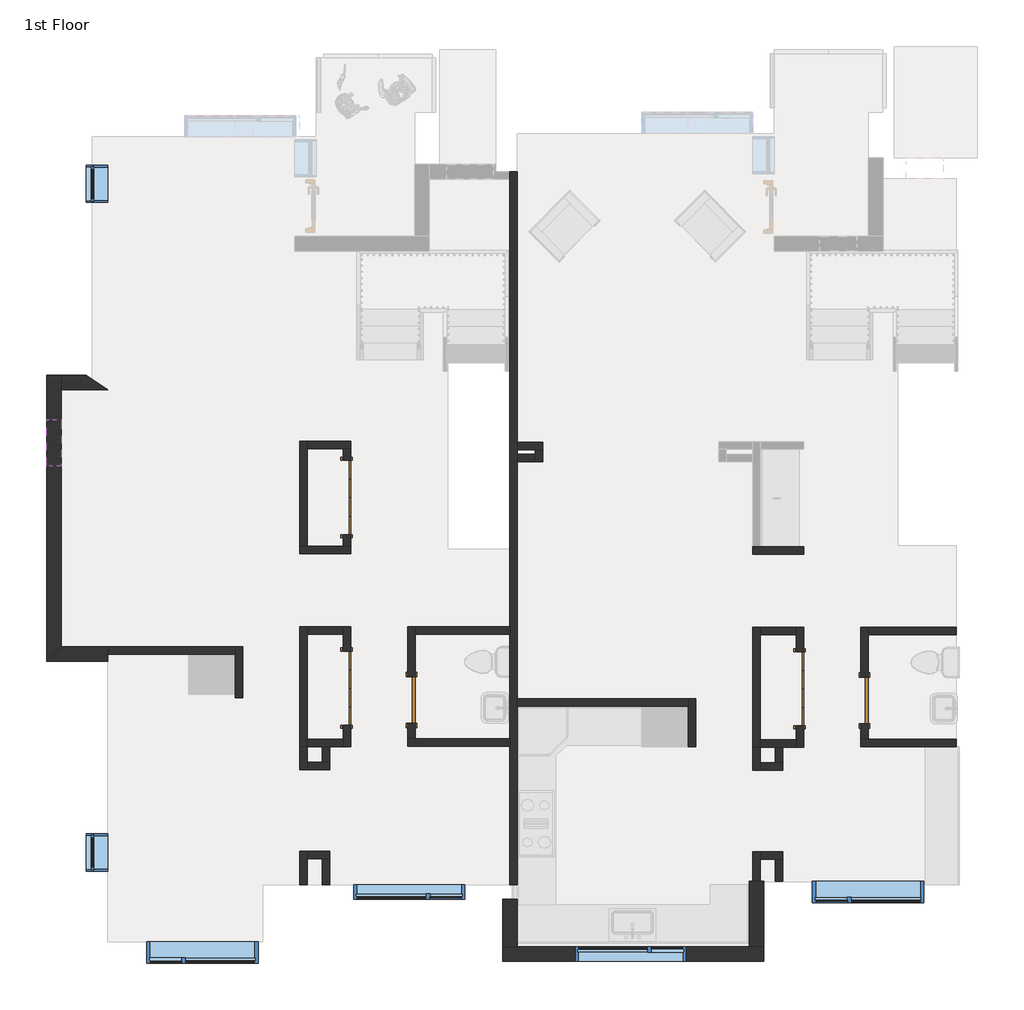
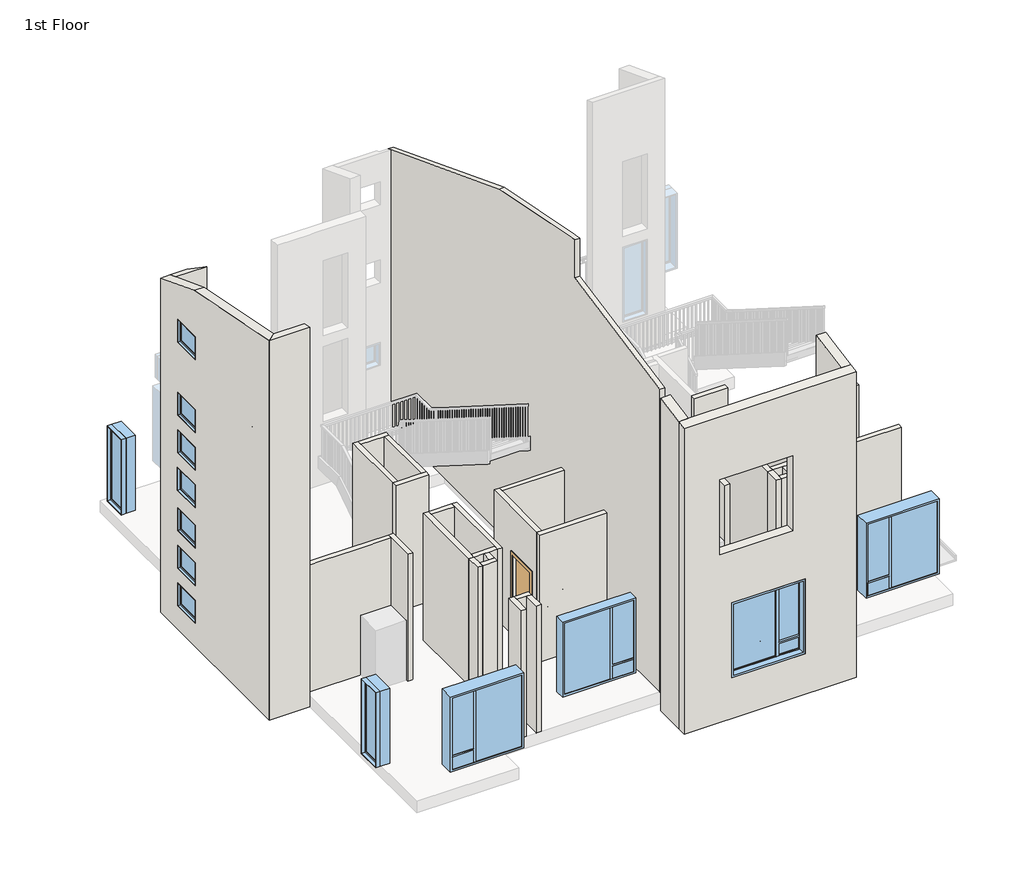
# One storey, part 1 of 6: 45 walls, 13 windows, 5 doors.
"""IFC4 building model written with IfcOpenShell, lengths in millimetres."""

from ifc_helpers import new_model, si_unit, frame, origin, origin_with_axes, place, context, project, spatial, polyline, outline, extrude, faceted_brep, transform, mapped, element, save
from components import bifold_4_panel_87549022, door_f8acb57e, window_8bf192ed, window_b1c1038b, window_8c170f25, window_7b40078c, window_0ea17b29, window_b4566f23

model = new_model("IFC4")

# Units and contexts
model_context = context("Model", 3, world=origin())
ifc_project = project(units=[si_unit("LENGTHUNIT", "METRE", prefix="MILLI")], contexts=[model_context])

# Site, building, storey
site = spatial("IfcSite", under=ifc_project)
building = spatial("IfcBuilding", under=site)
storey = spatial("IfcBuildingStorey", under=building, Name="1st Floor", Elevation=0.0)

# Doors
placement = place(None, origin())
bifold_4_panel_shape = bifold_4_panel_87549022(model_context)
element("IfcDoor", 1, ObjectType="Bifold - 4 panel : 48\" x  84\"", at=placement, inside=storey, context=model_context, shape_type="MappedRepresentation", body=[
    mapped(bifold_4_panel_shape, transform((3072.3655789, -2688.2311915, 0.0), x_axis=(0.0, -1.0, 0.0), y_axis=(1.0, 0.0, 0.0), z_axis=(0.0, 0.0, 1.0))),
])
element("IfcDoor", 2, ObjectType="Bifold - 4 panel : 48\" x  84\"", at=placement, inside=storey, context=model_context, shape_type="MappedRepresentation", body=[
    mapped(bifold_4_panel_shape, transform((-4380.8788287, -2678.2311915, 0.0), x_axis=(0.0, -1.0, 0.0), y_axis=(1.0, 0.0, 0.0), z_axis=(0.0, 0.0, 1.0))),
])
element("IfcDoor", 3, ObjectType="Bifold - 4 panel : 48\" x  84\"", at=placement, inside=storey, context=model_context, shape_type="MappedRepresentation", body=[
    mapped(bifold_4_panel_shape, transform((-4380.8788287, 458.0881146, 0.0), x_axis=(0.0, -1.0, 0.0), y_axis=(1.0, 0.0, 0.0), z_axis=(0.0, 0.0, 1.0))),
])
door_shape = door_f8acb57e(model_context)
element("IfcDoor", 4, ObjectType="Single-Flush : 30\" x 84\"", at=placement, inside=storey, context=model_context, shape_type="MappedRepresentation", body=[
    mapped(door_shape, transform((4133.8655789, -2883.0811915, 0.0), x_axis=(0.0, -1.0, 0.0), y_axis=(1.0, 0.0, 0.0), z_axis=(0.0, 0.0, 1.0))),
])
element("IfcDoor", 5, ObjectType="Single-Flush : 30\" x 84\"", at=placement, inside=storey, context=model_context, shape_type="MappedRepresentation", body=[
    mapped(door_shape, transform((-3319.3788287, -2873.0811915, 0.0), x_axis=(0.0, -1.0, 0.0), y_axis=(1.0, 0.0, 0.0), z_axis=(0.0, 0.0, 1.0))),
])

# Walls
element("IfcWall", 6, ObjectType="Exterior - Stucco", at=placement, inside=storey, context=model_context, shape_type="Brep", body=[
    faceted_brep([(-1817.4196781, -7175.2311915, -304.8), (2477.8178219, -7175.2311915, -304.8), (2477.8178219, -7175.2311915, 7751.741203), (-1817.4196781, -7175.2311915, 7751.741203), (1202.9938664, -7175.2311915, 2743.2), (1202.9938664, -7175.2311915, 762.0), (-625.8061336, -7175.2311915, 762.0), (-625.8061336, -7175.2311915, 2743.2), (898.1938664, -7175.2311915, 6096.0), (898.1938664, -7175.2311915, 4114.8), (-930.6061336, -7175.2311915, 4114.8), (-930.6061336, -7175.2311915, 6096.0), (-1817.4196781, -6933.9311915, -304.8), (-1817.4196781, -6933.9311915, 7798.3676333), (-1576.1196781, -6933.9311915, 7798.3676333), (2236.5178219, -6933.9311915, 7798.3676333), (2477.8178219, -6933.9311915, 7798.3676333), (2477.8178219, -6933.9311915, -304.8), (2236.5178219, -6933.9311915, -304.8), (-1576.1196781, -6933.9311915, -304.8), (1202.9938664, -6933.9311915, 2743.2), (-625.8061336, -6933.9311915, 2743.2), (-625.8061336, -6933.9311915, 762.0), (1202.9938664, -6933.9311915, 762.0), (898.1938664, -6933.9311915, 6096.0), (-930.6061336, -6933.9311915, 6096.0), (-930.6061336, -6933.9311915, 4114.8), (898.1938664, -6933.9311915, 4114.8)], [[[0, 1, 2, 3], [4, 5, 6, 7], [8, 9, 10, 11]], [[12, 13, 14, 15, 16, 17, 18, 19], [20, 21, 22, 23], [24, 25, 26, 27]], [[1, 0, 12, 19, 18, 17]], [[0, 3, 13, 12]], [[2, 1, 17, 16]], [[3, 2, 16, 15, 14, 13]], [[5, 4, 20, 23]], [[6, 5, 23, 22]], [[7, 6, 22, 21]], [[4, 7, 21, 20]], [[9, 8, 24, 27]], [[10, 9, 27, 26]], [[11, 10, 26, 25]], [[8, 11, 25, 24]]]),
])
element("IfcWall", 7, ObjectType="Exterior - Stucco", at=placement, inside=storey, context=model_context, shape_type="Brep", body=[
    faceted_brep([(-9080.4946781, 2472.0574206, -304.8), (-9080.4946781, 2472.0574206, 8511.7370135), (-9080.4946781, 2230.7574206, 8604.6307787), (-9080.4946781, 1023.3611207, 9069.4446552), (-9080.4946781, -1997.5436915, 9665.7212145), (-9080.4946781, -1997.5436915, -304.8), (-9080.4946781, 2230.7574206, -304.8), (-9080.4946781, 1734.6688085, 914.4), (-9080.4946781, 1734.6688085, 304.8), (-9080.4946781, 972.6688085, 304.8), (-9080.4946781, 972.6688085, 914.4), (-9080.4946781, 1734.6688085, 1908.175), (-9080.4946781, 1734.6688085, 1298.575), (-9080.4946781, 972.6688085, 1298.575), (-9080.4946781, 972.6688085, 1908.175), (-9080.4946781, 1734.6688085, 2901.95), (-9080.4946781, 1734.6688085, 2292.35), (-9080.4946781, 972.6688085, 2292.35), (-9080.4946781, 972.6688085, 2901.95), (-9080.4946781, 1741.8074206, 3962.4), (-9080.4946781, 1741.8074206, 3352.8), (-9080.4946781, 979.8074206, 3352.8), (-9080.4946781, 979.8074206, 3962.4), (-9080.4946781, 1734.6688085, 4956.175), (-9080.4946781, 1734.6688085, 4346.575), (-9080.4946781, 972.6688085, 4346.575), (-9080.4946781, 972.6688085, 4956.175), (-9080.4946781, 1734.6688085, 5949.95), (-9080.4946781, 1734.6688085, 5340.35), (-9080.4946781, 972.6688085, 5340.35), (-9080.4946781, 972.6688085, 5949.95), (-9080.4946781, 1734.6688085, 7870.825), (-9080.4946781, 1734.6688085, 7261.225), (-9080.4946781, 972.6688085, 7261.225), (-9080.4946781, 972.6688085, 7870.825), (-9321.7946781, 2472.0574206, -304.8), (-9321.7946781, -2238.8436915, -304.8), (-9321.7946781, -2238.8436915, 9713.3498366), (-9321.7946781, 1023.3611207, 9069.4446552), (-9321.7946781, 2472.0574206, 8511.7370135), (-9321.7946781, 1734.6688085, 914.4), (-9321.7946781, 972.6688085, 914.4), (-9321.7946781, 972.6688085, 304.8), (-9321.7946781, 1734.6688085, 304.8), (-9321.7946781, 1734.6688085, 1908.175), (-9321.7946781, 972.6688085, 1908.175), (-9321.7946781, 972.6688085, 1298.575), (-9321.7946781, 1734.6688085, 1298.575), (-9321.7946781, 1734.6688085, 2901.95), (-9321.7946781, 972.6688085, 2901.95), (-9321.7946781, 972.6688085, 2292.35), (-9321.7946781, 1734.6688085, 2292.35), (-9321.7946781, 1741.8074206, 3962.4), (-9321.7946781, 979.8074206, 3962.4), (-9321.7946781, 979.8074206, 3352.8), (-9321.7946781, 1741.8074206, 3352.8), (-9321.7946781, 1734.6688085, 4956.175), (-9321.7946781, 972.6688085, 4956.175), (-9321.7946781, 972.6688085, 4346.575), (-9321.7946781, 1734.6688085, 4346.575), (-9321.7946781, 1734.6688085, 5949.95), (-9321.7946781, 972.6688085, 5949.95), (-9321.7946781, 972.6688085, 5340.35), (-9321.7946781, 1734.6688085, 5340.35), (-9321.7946781, 1734.6688085, 7870.825), (-9321.7946781, 972.6688085, 7870.825), (-9321.7946781, 972.6688085, 7261.225), (-9321.7946781, 1734.6688085, 7261.225)], [[[0, 1, 2, 3, 4, 5, 6], [7, 8, 9, 10], [11, 12, 13, 14], [15, 16, 17, 18], [19, 20, 21, 22], [23, 24, 25, 26], [27, 28, 29, 30], [31, 32, 33, 34]], [[35, 36, 37, 38, 39], [40, 41, 42, 43], [44, 45, 46, 47], [48, 49, 50, 51], [52, 53, 54, 55], [56, 57, 58, 59], [60, 61, 62, 63], [64, 65, 66, 67]], [[36, 35, 0, 6, 5]], [[35, 39, 1, 0]], [[37, 36, 5, 4]], [[8, 7, 40, 43]], [[9, 8, 43, 42]], [[10, 9, 42, 41]], [[7, 10, 41, 40]], [[12, 11, 44, 47]], [[13, 12, 47, 46]], [[14, 13, 46, 45]], [[11, 14, 45, 44]], [[16, 15, 48, 51]], [[17, 16, 51, 50]], [[18, 17, 50, 49]], [[15, 18, 49, 48]], [[20, 19, 52, 55]], [[21, 20, 55, 54]], [[22, 21, 54, 53]], [[19, 22, 53, 52]], [[24, 23, 56, 59]], [[25, 24, 59, 58]], [[26, 25, 58, 57]], [[23, 26, 57, 56]], [[28, 27, 60, 63]], [[29, 28, 63, 62]], [[30, 29, 62, 61]], [[27, 30, 61, 60]], [[32, 31, 64, 67]], [[33, 32, 67, 66]], [[34, 33, 66, 65]], [[31, 34, 65, 64]], [[39, 38, 3, 2, 1]], [[38, 37, 4, 3]]]),
])
element("IfcWall", 8, ObjectType="Exterior - Stucco", at=placement, inside=storey, context=model_context, shape_type="Brep", body=[
    faceted_brep([(-9080.4946781, 2230.7574206, -304.8), (-8312.2446781, 2230.7574206, -304.8), (-8312.2446781, 2230.7574206, 8604.6307787), (-9080.4946781, 2230.7574206, 8604.6307787), (-9080.4946781, 2472.0574206, -304.8), (-9080.4946781, 2472.0574206, 8511.7370135), (-8664.6696781, 2472.0574206, 8511.7370135), (-8664.6696781, 2472.0574206, -304.8)], [[[0, 1, 2, 3]], [[4, 5, 6, 7]], [[1, 0, 4, 7]], [[2, 1, 7, 6]], [[0, 3, 5, 4]], [[3, 2, 6, 5]]]),
])
element("IfcWall", 9, ObjectType="Exterior - Stucco", at=placement, inside=storey, context=model_context, shape_type="Brep", body=[
    faceted_brep([(-9321.7946781, -2238.8436915, -304.8), (-8312.2446781, -2238.8436915, -304.8), (-8312.2446781, -2238.8436915, -28.575), (-8312.2446781, -2238.8436915, 6705.6), (-8312.2446781, -2238.8436915, 8711.0519224), (-8312.2446781, -2238.8436915, 9713.3498366), (-9321.7946781, -2238.8436915, 9713.3498366), (-9080.4946781, -1997.5436915, -304.8), (-9080.4946781, -1997.5436915, 9665.7212145), (-8312.2446781, -1997.5436915, 9665.7212145), (-8312.2446781, -1997.5436915, 6705.6), (-8312.2446781, -1997.5436915, -304.8)], [[[0, 1, 2, 3, 4, 5, 6]], [[7, 8, 9, 10, 11]], [[1, 0, 7, 11]], [[5, 4, 3, 2, 1, 11, 10, 9]], [[0, 6, 8, 7]], [[6, 5, 9, 8]]]),
])
element("IfcWall", 10, ObjectType="Exterior - Stucco", at=placement, inside=storey, context=model_context, shape_type="SweptSolid", body=[
    extrude(outline(polyline([(-6155.1546456, 7948.8507263), (-6155.1546456, -304.8), (-6933.9311915, -304.8), (-6933.9311915, 7798.3676333), (-6155.1546456, 7948.8507263)])), frame((-1817.4196781, 0.0, 0.0), z_axis=(1.0, 0.0, 0.0), x_axis=(0.0, 1.0, 0.0)), (0.0, 0.0, 1.0), 241.3),
])
element("IfcWall", 11, ObjectType="Exterior - Stucco", at=placement, inside=storey, context=model_context, shape_type="Brep", body=[
    faceted_brep([(2477.8178219, -6933.9311915, -304.8), (2477.8178219, -6210.7171456, -304.8), (2477.8178219, -5858.2921456, -304.8), (2477.8178219, -5858.2921456, 8006.2135057), (2477.8178219, -6210.7171456, 7938.1143772), (2477.8178219, -6933.9311915, 7798.3676333), (2236.5178219, -6933.9311915, -304.8), (2236.5178219, -6933.9311915, 7798.3676333), (2236.5178219, -5858.2921456, 8006.2135057), (2236.5178219, -5858.2921456, -304.8)], [[[0, 1, 2, 3, 4, 5]], [[6, 7, 8, 9]], [[2, 1, 0, 6, 9]], [[2, 9, 8, 3]], [[0, 5, 7, 6]], [[5, 4, 3, 8, 7]]]),
])
element("IfcWall", 12, ObjectType="Interior - 4 7/8\" Partition (1-hr)", at=placement, inside=storey, context=model_context, shape_type="Brep", body=[
    faceted_brep([(5642.6530789, -3646.6686915, 0.0), (5642.6530789, -3646.6686915, 3048.0), (4071.9530789, -3646.6686915, 3048.0), (4071.9530789, -3646.6686915, 0.0), (5642.6530789, -3522.8436915, 0.0), (4195.7780789, -3522.8436915, 0.0), (4071.9530789, -3522.8436915, 0.0), (4071.9530789, -3522.8436915, 3048.0), (4195.7780789, -3522.8436915, 3048.0), (5642.6530789, -3522.8436915, 3048.0)], [[[0, 1, 2, 3]], [[4, 5, 6, 7, 8, 9]], [[6, 5, 4, 0, 3]], [[7, 6, 3, 2]], [[4, 9, 1, 0]], [[9, 8, 7, 2, 1]]]),
])
element("IfcWall", 13, ObjectType="Interior - 4 7/8\" Partition (1-hr)", at=placement, inside=storey, context=model_context, shape_type="Brep", body=[
    faceted_brep([(4071.9530789, -3264.0811915, 2133.6), (4071.9530789, -3264.0811915, 0.0), (4071.9530789, -3522.8436915, 0.0), (4071.9530789, -3522.8436915, 3048.0), (4071.9530789, -1675.8186915, 3048.0), (4071.9530789, -1675.8186915, 0.0), (4071.9530789, -2502.0811915, 0.0), (4071.9530789, -2502.0811915, 2133.6), (4195.7780789, -3522.8436915, 0.0), (4195.7780789, -3264.0811915, 0.0), (4195.7780789, -3264.0811915, 2133.6), (4195.7780789, -2502.0811915, 2133.6), (4195.7780789, -2502.0811915, 0.0), (4195.7780789, -1799.6436915, 0.0), (4195.7780789, -1675.8186915, 0.0), (4195.7780789, -1675.8186915, 3048.0), (4195.7780789, -1799.6436915, 3048.0), (4195.7780789, -3522.8436915, 3048.0)], [[[0, 1, 2, 3, 4, 5, 6, 7]], [[8, 9, 10, 11, 12, 13, 14, 15, 16, 17]], [[2, 1, 9, 8]], [[6, 5, 14, 13, 12]], [[15, 14, 5, 4]], [[8, 17, 3, 2]], [[17, 16, 15, 4, 3]], [[10, 9, 1, 0]], [[11, 10, 0, 7]], [[12, 11, 7, 6]]]),
])
element("IfcWall", 14, ObjectType="Interior - 4 7/8\" Partition (1-hr)", at=placement, inside=storey, context=model_context, shape_type="SweptSolid", body=[
    extrude(outline(polyline([(5642.6530789, -1799.6436915), (4195.7780789, -1799.6436915), (4195.7780789, -1675.8186915), (5642.6530789, -1675.8186915), (5642.6530789, -1799.6436915)])), origin_with_axes(), (0.0, 0.0, 1.0), 3048.0),
])
element("IfcWall", 15, ObjectType="Interior - 4 7/8\" Partition (1-hr)", at=placement, inside=storey, context=model_context, shape_type="Brep", body=[
    faceted_brep([(3133.8655789, -352.8186915, 0.0), (3133.8655789, -352.8186915, 3048.0), (3133.8655789, -476.6436915, 3048.0), (3133.8655789, -476.6436915, 0.0), (2300.7803219, -476.6436915, 3048.0), (2300.7803219, -476.6436915, 0.0), (2424.6053219, -352.8186915, 0.0), (2300.7803219, -352.8186915, 0.0), (2300.7803219, -352.8186915, 3048.0), (2424.6053219, -352.8186915, 3048.0)], [[[0, 1, 2, 3]], [[3, 2, 4, 5]], [[0, 6, 7, 8, 9, 1]], [[7, 6, 0, 3, 5]], [[8, 7, 5, 4]], [[1, 9, 8, 4, 2]]]),
])
element("IfcWall", 16, ObjectType="Interior - 4 7/8\" Partition (1-hr)", at=placement, inside=storey, context=model_context, shape_type="SweptSolid", body=[
    extrude(outline(polyline([(1235.1530789, -2980.3686915), (-1576.1196781, -2980.3686915), (-1576.1196781, -2856.5436915), (1235.1530789, -2856.5436915), (1235.1530789, -2980.3686915)])), origin_with_axes(), (0.0, 0.0, 1.0), 3048.0),
])
element("IfcWall", 17, ObjectType="Interior - 4 7/8\" Partition (1-hr)", at=placement, inside=storey, context=model_context, shape_type="Brep", body=[
    faceted_brep([(3134.2780789, -3652.9061915, 0.0), (3134.2780789, -3297.8311915, 0.0), (3134.2780789, -3297.8311915, 2133.6), (3134.2780789, -2078.6311915, 2133.6), (3134.2780789, -2078.6311915, 0.0), (3134.2780789, -1675.8186915, 0.0), (3134.2780789, -1675.8186915, 3048.0), (3134.2780789, -3652.9061915, 3048.0), (3010.4530789, -3297.8311915, 2133.6), (3010.4530789, -3297.8311915, 0.0), (3010.4530789, -3529.0811915, 0.0), (3010.4530789, -3652.9061915, 0.0), (3010.4530789, -3652.9061915, 3048.0), (3010.4530789, -3529.0811915, 3048.0), (3010.4530789, -1799.6436915, 3048.0), (3010.4530789, -1675.8186915, 3048.0), (3010.4530789, -1675.8186915, 0.0), (3010.4530789, -1799.6436915, 0.0), (3010.4530789, -2078.6311915, 0.0), (3010.4530789, -2078.6311915, 2133.6)], [[[0, 1, 2, 3, 4, 5, 6, 7]], [[8, 9, 10, 11, 12, 13, 14, 15, 16, 17, 18, 19]], [[11, 10, 9, 1, 0]], [[18, 17, 16, 5, 4]], [[16, 15, 6, 5]], [[12, 11, 0, 7]], [[15, 14, 13, 12, 7, 6]], [[2, 1, 9, 8]], [[3, 2, 8, 19]], [[4, 3, 19, 18]]]),
])
element("IfcWall", 18, ObjectType="Interior - 4 7/8\" Partition (1-hr)", at=placement, inside=storey, context=model_context, shape_type="Brep", body=[
    faceted_brep([(2424.6053219, -1675.8186915, 0.0), (2424.6053219, -1675.8186915, 3048.0), (2424.6053219, -1799.6436915, 3048.0), (2424.6053219, -3529.0811915, 3048.0), (2424.6053219, -3652.9061915, 3048.0), (2424.6053219, -3652.9061915, 0.0), (2424.6053219, -3529.0811915, 0.0), (2424.6053219, -1799.6436915, 0.0), (2300.7803219, -1675.8186915, 0.0), (2300.7803219, -3652.9061915, 0.0), (2300.7803219, -3652.9061915, 3048.0), (2300.7803219, -1675.8186915, 3048.0)], [[[0, 1, 2, 3, 4, 5, 6, 7]], [[8, 9, 10, 11]], [[9, 8, 0, 7, 6, 5]], [[8, 11, 1, 0]], [[10, 9, 5, 4]], [[11, 10, 4, 3, 2, 1]]]),
])
element("IfcWall", 19, ObjectType="Interior - 4 7/8\" Partition (1-hr)", at=placement, inside=storey, context=model_context, shape_type="Brep", body=[
    faceted_brep([(1235.1530789, -3646.2561915, 3048.0), (1235.1530789, -3646.2561915, 0.0), (1358.9780789, -3646.2561915, 0.0), (1358.9780789, -3646.2561915, 3048.0), (1358.9780789, -2856.5436915, 0.0), (1358.9780789, -2856.5436915, 3048.0), (1235.1530789, -2856.5436915, 0.0), (1235.1530789, -2980.3686915, 0.0), (1235.1530789, -2980.3686915, 3048.0), (1235.1530789, -2856.5436915, 3048.0)], [[[0, 1, 2, 3]], [[4, 5, 3, 2]], [[6, 7, 1, 0, 8, 9]], [[1, 7, 6, 4, 2]], [[6, 9, 5, 4]], [[9, 8, 0, 3, 5]]]),
])
element("IfcWall", 20, ObjectType="Interior - 4 7/8\" Partition (1-hr)", at=placement, inside=storey, context=model_context, shape_type="SweptSolid", body=[
    extrude(outline(polyline([(3010.4530789, -1799.6436915), (2424.6053219, -1799.6436915), (2424.6053219, -1675.8186915), (3010.4530789, -1675.8186915), (3010.4530789, -1799.6436915)])), origin_with_axes(), (0.0, 0.0, 1.0), 3048.0),
])
element("IfcWall", 21, ObjectType="Interior - 4 7/8\" Partition (1-hr)", at=placement, inside=storey, context=model_context, shape_type="Brep", body=[
    faceted_brep([(2424.6053219, -3652.9061915, 0.0), (2667.0803219, -3652.9061915, 0.0), (2790.9053219, -3652.9061915, 0.0), (3010.4530789, -3652.9061915, 0.0), (3010.4530789, -3652.9061915, 3048.0), (2790.9053219, -3652.9061915, 3048.0), (2667.0803219, -3652.9061915, 3048.0), (2424.6053219, -3652.9061915, 3048.0), (2424.6053219, -3529.0811915, 0.0), (2424.6053219, -3529.0811915, 3048.0), (3010.4530789, -3529.0811915, 3048.0), (3010.4530789, -3529.0811915, 0.0)], [[[0, 1, 2, 3, 4, 5, 6, 7]], [[8, 9, 10, 11]], [[3, 2, 1, 0, 8, 11]], [[4, 3, 11, 10]], [[0, 7, 9, 8]], [[7, 6, 5, 4, 10, 9]]]),
])
element("IfcWall", 22, ObjectType="Interior - 4 7/8\" Partition (1-hr)", at=placement, inside=storey, context=model_context, shape_type="Brep", body=[
    faceted_brep([(-1576.1196781, 1369.6145201, 0.0), (-1576.1196781, 1369.6145201, 3048.0), (-1158.1946824, 1369.6188208, 3048.0), (-1158.1946824, 1369.6188208, 0.0), (-1576.1196781, 1245.7895201, 0.0), (-1282.0184081, 1245.7925466, 0.0), (-1158.1934081, 1245.7938208, 0.0), (-1158.1934081, 1245.7938208, 3048.0), (-1282.0184081, 1245.7925466, 3048.0), (-1576.1196781, 1245.7895201, 3048.0)], [[[0, 1, 2, 3]], [[4, 5, 6, 7, 8, 9]], [[6, 5, 4, 0, 3]], [[7, 6, 3, 2]], [[4, 9, 1, 0]], [[9, 8, 7, 2, 1]]]),
])
element("IfcWall", 23, ObjectType="Interior - 4 7/8\" Partition (1-hr)", at=placement, inside=storey, context=model_context, shape_type="Brep", body=[
    faceted_brep([(-1158.1934081, 1245.7938208, 0.0), (-1158.1934081, 1245.7938208, 3048.0), (-1158.1913829, 1048.9949206, 3048.0), (-1158.1913829, 1048.9949206, 0.0), (-1282.0184081, 1245.7925466, 0.0), (-1282.0176572, 1172.8199206, 0.0), (-1282.016383, 1048.9949206, 0.0), (-1282.016383, 1048.9949206, 3048.0), (-1282.0176572, 1172.8199206, 3048.0), (-1282.0184081, 1245.7925466, 3048.0)], [[[0, 1, 2, 3]], [[4, 5, 6, 7, 8, 9]], [[6, 5, 4, 0, 3]], [[4, 9, 1, 0]], [[7, 6, 3, 2]], [[9, 8, 7, 2, 1]]]),
])
element("IfcWall", 24, ObjectType="Interior - 4 7/8\" Partition (1-hr)", at=placement, inside=storey, context=model_context, shape_type="SweptSolid", body=[
    extrude(outline(polyline([(-1576.1196781, 1172.8199206), (-1282.0176572, 1172.8199206), (-1282.016383, 1048.9949206), (-1576.1196781, 1048.9949206), (-1576.1196781, 1172.8199206)])), origin_with_axes(), (0.0, 0.0, 1.0), 3048.0),
])
element("IfcWall", 25, ObjectType="Interior - 4 7/8\" Partition (1-hr)", at=placement, inside=storey, context=model_context, shape_type="Brep", body=[
    faceted_brep([(2424.6053219, -3652.9061915, 0.0), (2424.6053219, -3652.9061915, 3048.0), (2424.6053219, -3904.9061915, 3048.0), (2424.6053219, -4028.7311915, 3048.0), (2424.6053219, -4028.7311915, 0.0), (2424.6053219, -3904.9061915, 0.0), (2300.7803219, -3652.9061915, 0.0), (2300.7803219, -4028.7311915, 0.0), (2300.7803219, -4028.7311915, 3048.0), (2300.7803219, -3652.9061915, 3048.0)], [[[0, 1, 2, 3, 4, 5]], [[6, 7, 8, 9]], [[7, 6, 0, 5, 4]], [[6, 9, 1, 0]], [[8, 7, 4, 3]], [[9, 8, 3, 2, 1]]]),
])
element("IfcWall", 26, ObjectType="Interior - 4 7/8\" Partition (1-hr)", at=placement, inside=storey, context=model_context, shape_type="Brep", body=[
    faceted_brep([(2424.6053219, -3904.9061915, 0.0), (2424.6053219, -3904.9061915, 3048.0), (2667.0803219, -3904.9061915, 3048.0), (2790.9053219, -3904.9061915, 3048.0), (2790.9053219, -3904.9061915, 0.0), (2667.0803219, -3904.9061915, 0.0), (2424.6053219, -4028.7311915, 0.0), (2790.9053219, -4028.7311915, 0.0), (2790.9053219, -4028.7311915, 3048.0), (2424.6053219, -4028.7311915, 3048.0)], [[[0, 1, 2, 3, 4, 5]], [[6, 7, 8, 9]], [[7, 6, 0, 5, 4]], [[6, 9, 1, 0]], [[8, 7, 4, 3]], [[9, 8, 3, 2, 1]]]),
])
element("IfcWall", 27, ObjectType="Interior - 4 7/8\" Partition (1-hr)", at=placement, inside=storey, context=model_context, shape_type="SweptSolid", body=[
    extrude(outline(polyline([(2790.9053219, -3652.9061915), (2790.9053219, -3904.9061915), (2667.0803219, -3904.9061915), (2667.0803219, -3652.9061915), (2790.9053219, -3652.9061915)])), origin_with_axes(), (0.0, 0.0, 1.0), 3048.0),
])
element("IfcWall", 28, ObjectType="Interior - 4 7/8\" Partition (1-hr)", at=placement, inside=storey, context=model_context, shape_type="Brep", body=[
    faceted_brep([(2300.6536115, -5858.2921456, 0.0), (2300.6536115, -5858.2921456, 3048.0), (2300.6536115, -5374.1311915, 3048.0), (2300.6536115, -5374.1311915, 0.0), (2424.4786115, -5858.2921456, 0.0), (2424.4786115, -5497.9561915, 0.0), (2424.4786115, -5374.1311915, 0.0), (2424.4786115, -5374.1311915, 3048.0), (2424.4786115, -5497.9561915, 3048.0), (2424.4786115, -5858.2921456, 3048.0)], [[[0, 1, 2, 3]], [[4, 5, 6, 7, 8, 9]], [[6, 5, 4, 0, 3]], [[7, 6, 3, 2]], [[4, 9, 1, 0]], [[9, 8, 7, 2, 1]]]),
])
element("IfcWall", 29, ObjectType="Interior - 4 7/8\" Partition (1-hr)", at=placement, inside=storey, context=model_context, shape_type="Brep", body=[
    faceted_brep([(2424.4786115, -5374.1311915, 0.0), (2424.4786115, -5374.1311915, 3048.0), (2790.9053219, -5374.1311915, 3048.0), (2790.9053219, -5374.1311915, 0.0), (2424.4786115, -5497.9561915, 0.0), (2667.0803219, -5497.9561915, 0.0), (2790.9053219, -5497.9561915, 0.0), (2790.9053219, -5497.9561915, 3048.0), (2667.0803219, -5497.9561915, 3048.0), (2424.4786115, -5497.9561915, 3048.0)], [[[0, 1, 2, 3]], [[4, 5, 6, 7, 8, 9]], [[6, 5, 4, 0, 3]], [[4, 9, 1, 0]], [[7, 6, 3, 2]], [[9, 8, 7, 2, 1]]]),
])
element("IfcWall", 30, ObjectType="Interior - 4 7/8\" Partition (1-hr)", at=placement, inside=storey, context=model_context, shape_type="SweptSolid", body=[
    extrude(outline(polyline([(2667.0803219, -5858.2921456), (2667.0803219, -5497.9561915), (2790.9053219, -5497.9561915), (2790.9053219, -5858.2921456), (2667.0803219, -5858.2921456)])), origin_with_axes(), (0.0, 0.0, 1.0), 3048.0),
])
element("IfcWall", 31, ObjectType="Interior - 4 7/8\" Partition (1-hr)", at=placement, inside=storey, context=model_context, shape_type="Brep", body=[
    faceted_brep([(-1699.9446781, -3512.8436915, 0.0), (-3257.4663287, -3512.8436915, 0.0), (-3381.2913287, -3512.8436915, 0.0), (-3381.2913287, -3512.8436915, 3352.8), (-3257.4663287, -3512.8436915, 3352.8), (-1699.9446781, -3512.8436915, 3352.8), (-1699.9446781, -3636.6686915, 0.0), (-1699.9446781, -3636.6686915, 3352.8), (-3381.2913287, -3636.6686915, 3352.8), (-3381.2913287, -3636.6686915, 0.0)], [[[0, 1, 2, 3, 4, 5]], [[6, 7, 8, 9]], [[2, 1, 0, 6, 9]], [[5, 4, 3, 8, 7]], [[3, 2, 9, 8]], [[0, 5, 7, 6]]]),
])
element("IfcWall", 32, ObjectType="Interior - 4 7/8\" Partition (1-hr)", at=placement, inside=storey, context=model_context, shape_type="Brep", body=[
    faceted_brep([(-3257.4663287, -3512.8436915, 3352.8), (-3257.4663287, -1789.6436915, 3352.8), (-3257.4663287, -1665.8186915, 3352.8), (-3381.2913287, -1665.8186915, 3352.8), (-3381.2913287, -3512.8436915, 3352.8), (-3381.2913287, -3254.0811915, 2133.6), (-3381.2913287, -3254.0811915, 0.0), (-3381.2913287, -3512.8436915, 0.0), (-3381.2913287, -1665.8186915, 0.0), (-3381.2913287, -2492.0811915, 0.0), (-3381.2913287, -2492.0811915, 2133.6), (-3257.4663287, -3512.8436915, 0.0), (-3257.4663287, -3254.0811915, 0.0), (-3257.4663287, -3254.0811915, 2133.6), (-3257.4663287, -2492.0811915, 2133.6), (-3257.4663287, -2492.0811915, 0.0), (-3257.4663287, -1789.6436915, 0.0), (-3257.4663287, -1665.8186915, 0.0)], [[[0, 1, 2, 3, 4]], [[5, 6, 7, 4, 3, 8, 9, 10]], [[11, 12, 13, 14, 15, 16, 17, 2, 1, 0]], [[7, 6, 12, 11]], [[9, 8, 17, 16, 15]], [[2, 17, 8, 3]], [[11, 0, 4, 7]], [[13, 12, 6, 5]], [[14, 13, 5, 10]], [[15, 14, 10, 9]]]),
])
element("IfcWall", 33, ObjectType="Interior - 4 7/8\" Partition (1-hr)", at=placement, inside=storey, context=model_context, shape_type="SweptSolid", body=[
    extrude(outline(polyline([(-1699.9446781, -1789.6436915), (-3257.4663287, -1789.6436915), (-3257.4663287, -1665.8186915), (-1699.9446781, -1665.8186915), (-1699.9446781, -1789.6436915)])), origin_with_axes(), (0.0, 0.0, 1.0), 3352.8),
])
element("IfcWall", 34, ObjectType="Interior - 4 7/8\" Partition (1-hr)", at=placement, inside=storey, context=model_context, shape_type="Brep", body=[
    faceted_brep([(-4318.9663287, -342.8186915, 0.0), (-4442.7913287, -342.8186915, 0.0), (-5028.6390857, -342.8186915, 0.0), (-5152.4640857, -342.8186915, 0.0), (-5152.4640857, -342.8186915, 3352.8), (-5028.6390857, -342.8186915, 3352.8), (-4442.7913287, -342.8186915, 3352.8), (-4318.9663287, -342.8186915, 3352.8), (-4318.9663287, -466.6436915, 0.0), (-4318.9663287, -466.6436915, 3352.8), (-5152.4640857, -466.6436915, 3352.8), (-5152.4640857, -466.6436915, 0.0)], [[[0, 1, 2, 3, 4, 5, 6, 7]], [[8, 9, 10, 11]], [[3, 2, 1, 0, 8, 11]], [[7, 6, 5, 4, 10, 9]], [[4, 3, 11, 10]], [[0, 7, 9, 8]]]),
])
element("IfcWall", 35, ObjectType="Interior - 4 7/8\" Partition (1-hr)", at=placement, inside=storey, context=model_context, shape_type="Brep", body=[
    faceted_brep([(-5028.6390857, -342.8186915, 0.0), (-5028.6390857, 1258.9949206, 0.0), (-5028.6390857, 1382.8199206, 0.0), (-5028.6390857, 1382.8199206, 3352.8), (-5028.6390857, 1258.9949206, 3352.8), (-5028.6390857, -342.8186915, 3352.8), (-5152.4640857, -342.8186915, 0.0), (-5152.4640857, -342.8186915, 3352.8), (-5152.4640857, 1382.8199206, 3352.8), (-5152.4640857, 1382.8199206, 0.0)], [[[0, 1, 2, 3, 4, 5]], [[6, 7, 8, 9]], [[2, 1, 0, 6, 9]], [[5, 4, 3, 8, 7]], [[3, 2, 9, 8]], [[0, 5, 7, 6]]]),
])
element("IfcWall", 36, ObjectType="Interior - 4 7/8\" Partition (1-hr)", at=placement, inside=storey, context=model_context, shape_type="Brep", body=[
    faceted_brep([(-5028.6390857, 1258.9949206, 0.0), (-4442.7913287, 1258.9949206, 0.0), (-4318.9663287, 1258.9949206, 0.0), (-4318.9663287, 1258.9949206, 3352.8), (-4442.7913287, 1258.9949206, 3352.8), (-5028.6390857, 1258.9949206, 3352.8), (-5028.6390857, 1382.8199206, 0.0), (-5028.6390857, 1382.8199206, 3352.8), (-4318.9663287, 1382.8199206, 3352.8), (-4318.9663287, 1382.8199206, 0.0)], [[[0, 1, 2, 3, 4, 5]], [[6, 7, 8, 9]], [[2, 1, 0, 6, 9]], [[5, 4, 3, 8, 7]], [[3, 2, 9, 8]], [[0, 5, 7, 6]]]),
])
element("IfcWall", 37, ObjectType="Interior - 4 7/8\" Partition (1-hr)", at=placement, inside=storey, context=model_context, shape_type="Brep", body=[
    faceted_brep([(-8312.2446781, -2121.3686915, 3352.8), (-7905.7446781, -2121.3686915, 3352.8), (-7143.7446781, -2121.3686915, 3352.8), (-6218.0913287, -2121.3686915, 3352.8), (-6218.0913287, -1997.5436915, 3352.8), (-7143.7446781, -1997.5436915, 3352.8), (-7905.7446781, -1997.5436915, 3352.8), (-8312.2446781, -1997.5436915, 3352.8), (-8312.2446781, -1997.5436915, 0.0), (-6218.0913287, -1997.5436915, 0.0), (-8312.2446781, -2121.3686915, 0.0), (-6218.0913287, -2121.3686915, 0.0)], [[[0, 1, 2, 3, 4, 5, 6, 7]], [[8, 7, 6, 5, 4, 9]], [[10, 11, 3, 2, 1, 0]], [[11, 10, 8, 9]], [[3, 11, 9, 4]], [[10, 0, 7, 8]]]),
])
element("IfcWall", 38, ObjectType="Interior - 4 7/8\" Partition (1-hr)", at=placement, inside=storey, context=model_context, shape_type="Brep", body=[
    faceted_brep([(-4442.7913287, -3287.8311915, 2133.6), (-4442.7913287, -3287.8311915, 0.0), (-4442.7913287, -3519.0811915, 0.0), (-4442.7913287, -3642.9061915, 0.0), (-4442.7913287, -3642.9061915, 3352.8), (-4442.7913287, -3519.0811915, 3352.8), (-4442.7913287, -1789.6436915, 3352.8), (-4442.7913287, -1665.8186915, 3352.8), (-4442.7913287, -1665.8186915, 0.0), (-4442.7913287, -1789.6436915, 0.0), (-4442.7913287, -2068.6311915, 0.0), (-4442.7913287, -2068.6311915, 2133.6), (-4318.9663287, -3642.9061915, 0.0), (-4318.9663287, -3287.8311915, 0.0), (-4318.9663287, -3287.8311915, 2133.6), (-4318.9663287, -2068.6311915, 2133.6), (-4318.9663287, -2068.6311915, 0.0), (-4318.9663287, -1665.8186915, 0.0), (-4318.9663287, -1665.8186915, 3352.8), (-4318.9663287, -3642.9061915, 3352.8)], [[[0, 1, 2, 3, 4, 5, 6, 7, 8, 9, 10, 11]], [[12, 13, 14, 15, 16, 17, 18, 19]], [[3, 2, 1, 13, 12]], [[10, 9, 8, 17, 16]], [[7, 6, 5, 4, 19, 18]], [[8, 7, 18, 17]], [[4, 3, 12, 19]], [[14, 13, 1, 0]], [[15, 14, 0, 11]], [[16, 15, 11, 10]]]),
])
element("IfcWall", 39, ObjectType="Interior - 4 7/8\" Partition (1-hr)", at=placement, inside=storey, context=model_context, shape_type="Brep", body=[
    faceted_brep([(-5152.4640857, -1665.8186915, 0.0), (-5152.4640857, -3642.9061915, 0.0), (-5152.4640857, -3642.9061915, 3352.8), (-5152.4640857, -1665.8186915, 3352.8), (-5028.6390857, -1665.8186915, 0.0), (-5028.6390857, -1665.8186915, 3352.8), (-5028.6390857, -1789.6436915, 3352.8), (-5028.6390857, -3519.0811915, 3352.8), (-5028.6390857, -3642.9061915, 3352.8), (-5028.6390857, -3642.9061915, 0.0), (-5028.6390857, -3519.0811915, 0.0), (-5028.6390857, -1789.6436915, 0.0)], [[[0, 1, 2, 3]], [[4, 5, 6, 7, 8, 9, 10, 11]], [[1, 0, 4, 11, 10, 9]], [[3, 2, 8, 7, 6, 5]], [[0, 3, 5, 4]], [[2, 1, 9, 8]]]),
])
element("IfcWall", 40, ObjectType="Interior - 4 7/8\" Partition (1-hr)", at=placement, inside=storey, context=model_context, shape_type="Brep", body=[
    faceted_brep([(-6218.0913287, -1997.5436915, 0.0), (-6218.0913287, -2121.3686915, 0.0), (-6218.0913287, -2836.9186915, 0.0), (-6218.0913287, -2836.9186915, 3352.8), (-6218.0913287, -2121.3686915, 3352.8), (-6218.0913287, -1997.5436915, 3352.8), (-6094.2663287, -1997.5436915, 0.0), (-6094.2663287, -1997.5436915, 3352.8), (-6094.2663287, -2836.9186915, 3352.8), (-6094.2663287, -2836.9186915, 0.0)], [[[0, 1, 2, 3, 4, 5]], [[6, 7, 8, 9]], [[2, 1, 0, 6, 9]], [[3, 2, 9, 8]], [[5, 4, 3, 8, 7]], [[0, 5, 7, 6]]]),
])
element("IfcWall", 41, ObjectType="Interior - 4 7/8\" Partition (1-hr)", at=placement, inside=storey, context=model_context, shape_type="SweptSolid", body=[
    extrude(outline(polyline([(-4442.7913287, -1789.6436915), (-5028.6390857, -1789.6436915), (-5028.6390857, -1665.8186915), (-4442.7913287, -1665.8186915), (-4442.7913287, -1789.6436915)])), origin_with_axes(), (0.0, 0.0, 1.0), 3352.8),
])
element("IfcWall", 42, ObjectType="Interior - 4 7/8\" Partition (1-hr)", at=placement, inside=storey, context=model_context, shape_type="Brep", body=[
    faceted_brep([(-5028.6390857, -3642.9061915, 0.0), (-4786.1640857, -3642.9061915, 0.0), (-4662.3390857, -3642.9061915, 0.0), (-4442.7913287, -3642.9061915, 0.0), (-4442.7913287, -3642.9061915, 3352.8), (-4662.3390857, -3642.9061915, 3352.8), (-4786.1640857, -3642.9061915, 3352.8), (-5028.6390857, -3642.9061915, 3352.8), (-5028.6390857, -3519.0811915, 0.0), (-5028.6390857, -3519.0811915, 3352.8), (-4442.7913287, -3519.0811915, 3352.8), (-4442.7913287, -3519.0811915, 0.0)], [[[0, 1, 2, 3, 4, 5, 6, 7]], [[8, 9, 10, 11]], [[3, 2, 1, 0, 8, 11]], [[7, 6, 5, 4, 10, 9]], [[4, 3, 11, 10]], [[0, 7, 9, 8]]]),
])
element("IfcWall", 43, ObjectType="Interior - 4 7/8\" Partition (1-hr)", at=placement, inside=storey, context=model_context, shape_type="Brep", body=[
    faceted_brep([(-5152.4640857, -3642.9061915, 0.0), (-5152.4640857, -4018.7311915, 0.0), (-5152.4640857, -4018.7311915, 3352.8), (-5152.4640857, -3642.9061915, 3352.8), (-5028.6390857, -3642.9061915, 0.0), (-5028.6390857, -3642.9061915, 3352.8), (-5028.6390857, -3894.9061915, 3352.8), (-5028.6390857, -4018.7311915, 3352.8), (-5028.6390857, -4018.7311915, 0.0), (-5028.6390857, -3894.9061915, 0.0)], [[[0, 1, 2, 3]], [[4, 5, 6, 7, 8, 9]], [[1, 0, 4, 9, 8]], [[3, 2, 7, 6, 5]], [[2, 1, 8, 7]], [[0, 3, 5, 4]]]),
])
element("IfcWall", 44, ObjectType="Interior - 4 7/8\" Partition (1-hr)", at=placement, inside=storey, context=model_context, shape_type="Brep", body=[
    faceted_brep([(-5028.6390857, -4018.7311915, 0.0), (-4662.3390857, -4018.7311915, 0.0), (-4662.3390857, -4018.7311915, 3352.8), (-5028.6390857, -4018.7311915, 3352.8), (-5028.6390857, -3894.9061915, 0.0), (-5028.6390857, -3894.9061915, 3352.8), (-4786.1640857, -3894.9061915, 3352.8), (-4662.3390857, -3894.9061915, 3352.8), (-4662.3390857, -3894.9061915, 0.0), (-4786.1640857, -3894.9061915, 0.0)], [[[0, 1, 2, 3]], [[4, 5, 6, 7, 8, 9]], [[1, 0, 4, 9, 8]], [[3, 2, 7, 6, 5]], [[2, 1, 8, 7]], [[0, 3, 5, 4]]]),
])
element("IfcWall", 45, ObjectType="Interior - 4 7/8\" Partition (1-hr)", at=placement, inside=storey, context=model_context, shape_type="SweptSolid", body=[
    extrude(outline(polyline([(-4662.3390857, -3642.9061915), (-4662.3390857, -3894.9061915), (-4786.1640857, -3894.9061915), (-4786.1640857, -3642.9061915), (-4662.3390857, -3642.9061915)])), origin_with_axes(), (0.0, 0.0, 1.0), 3352.8),
])
element("IfcWall", 46, ObjectType="Interior - 4 7/8\" Partition (1-hr)", at=placement, inside=storey, context=model_context, shape_type="Brep", body=[
    faceted_brep([(-5028.7657961, -5913.8546456, 0.0), (-5028.7657961, -5487.9561915, 0.0), (-5028.7657961, -5364.1311915, 0.0), (-5028.7657961, -5364.1311915, 3352.8), (-5028.7657961, -5487.9561915, 3352.8), (-5028.7657961, -5913.8546456, 3352.8), (-5152.5907961, -5913.8546456, 0.0), (-5152.5907961, -5913.8546456, 3352.8), (-5152.5907961, -5364.1311915, 3352.8), (-5152.5907961, -5364.1311915, 0.0)], [[[0, 1, 2, 3, 4, 5]], [[6, 7, 8, 9]], [[2, 1, 0, 6, 9]], [[5, 4, 3, 8, 7]], [[3, 2, 9, 8]], [[0, 5, 7, 6]]]),
])
element("IfcWall", 47, ObjectType="Interior - 4 7/8\" Partition (1-hr)", at=placement, inside=storey, context=model_context, shape_type="Brep", body=[
    faceted_brep([(-5028.7657961, -5487.9561915, 0.0), (-4786.1640857, -5487.9561915, 0.0), (-4662.3390857, -5487.9561915, 0.0), (-4662.3390857, -5487.9561915, 3352.8), (-4786.1640857, -5487.9561915, 3352.8), (-5028.7657961, -5487.9561915, 3352.8), (-5028.7657961, -5364.1311915, 0.0), (-5028.7657961, -5364.1311915, 3352.8), (-4662.3390857, -5364.1311915, 3352.8), (-4662.3390857, -5364.1311915, 0.0)], [[[0, 1, 2, 3, 4, 5]], [[6, 7, 8, 9]], [[2, 1, 0, 6, 9]], [[5, 4, 3, 8, 7]], [[3, 2, 9, 8]], [[0, 5, 7, 6]]]),
])
element("IfcWall", 48, ObjectType="Interior - 4 7/8\" Partition (1-hr)", at=placement, inside=storey, context=model_context, shape_type="SweptSolid", body=[
    extrude(outline(polyline([(-4786.1640857, -5913.8546456), (-4786.1640857, -5487.9561915), (-4662.3390857, -5487.9561915), (-4662.3390857, -5913.8546456), (-4786.1640857, -5913.8546456)])), origin_with_axes(), (0.0, 0.0, 1.0), 3352.8),
])
element("IfcWall", 49, ObjectType="Interior - 4 7/8\" Partition (1-hr)", at=placement, inside=storey, context=model_context, shape_type="SweptSolid", body=[
    extrude(outline(polyline([(-151.5118854, 2133.6), (-151.5118854, 0.0), (-342.8186915, 0.0), (-342.8186915, 3352.8), (1258.9949206, 3352.8), (1258.9949206, 0.0), (1067.6881146, 0.0), (1067.6881146, 2133.6), (-151.5118854, 2133.6)])), frame((-4442.7913287, 0.0, 0.0), z_axis=(1.0, 0.0, 0.0), x_axis=(0.0, 1.0, 0.0)), (0.0, 0.0, 1.0), 123.825),
])
element("IfcWall", 50, ObjectType="Interior - 4 7/8\" Partition (1-hr)", at=placement, inside=storey, context=model_context, shape_type="Brep", body=[
    faceted_brep([(-1699.9446781, 5817.7187973, 0.0), (-1699.9446781, 5817.7187973, 7223.7507625), (-1576.1196781, 5817.7187973, 7223.7507625), (-1576.1196781, 5817.7187973, 0.0), (-1576.1196781, 1023.3611207, 9069.4446552), (-1576.1196781, -1997.5436915, 9665.7212145), (-1576.1196781, -2238.8436915, 9713.3498366), (-1576.1196781, -2238.8436915, 8705.6), (-1576.1196781, -5913.8546456, 7995.4771566), (-1576.1196781, -5913.8546456, 0.0), (-1576.1196781, -2980.3686915, 0.0), (-1576.1196781, -2856.5436915, 0.0), (-1576.1196781, 1048.9949206, 0.0), (-1576.1196781, 1172.8199206, 0.0), (-1576.1196781, 1245.7895201, 0.0), (-1576.1196781, 1369.6145201, 0.0), (-1576.1196781, 5697.0687973, 0.0), (-1699.9446781, 5697.0687973, 0.0), (-1699.9446781, -1665.8186915, 0.0), (-1699.9446781, -1789.6436915, 0.0), (-1699.9446781, -3512.8436915, 0.0), (-1699.9446781, -3636.6686915, 0.0), (-1699.9446781, -5913.8546456, 0.0), (-1699.9446781, -5913.8546456, 7995.4771566), (-1699.9446781, -2238.8436915, 8705.6), (-1699.9446781, -2238.8436915, 9713.3498366), (-1699.9446781, -1997.5436915, 9665.7212145), (-1699.9446781, 1023.3611207, 9069.4446552), (-1699.9446781, 5697.0687973, 7270.1976451)], [[[0, 1, 2, 3]], [[3, 2, 4, 5, 6, 7, 8, 9, 10, 11, 12, 13, 14, 15, 16]], [[0, 17, 18, 19, 20, 21, 22, 23, 24, 25, 26, 27, 28, 1]], [[22, 21, 20, 19, 18, 17, 0, 3, 16, 15, 14, 13, 12, 11, 10, 9]], [[23, 22, 9, 8]], [[6, 25, 24, 7]], [[24, 23, 8, 7]], [[1, 28, 27, 4, 2]], [[27, 26, 25, 6, 5, 4]]]),
])

# Windows
window_shape = window_8bf192ed(model_context)
element("IfcWindow", 51, ObjectType="Fixed : 24\" x 30\"", at=placement, inside=storey, context=model_context, shape_type="MappedRepresentation", body=[
    mapped(window_shape, transform((-9201.1446781, 1391.7688085, -609.6), x_axis=(0.0, 1.0, 0.0), y_axis=(-1.0, 0.0, 0.0), z_axis=(0.0, 0.0, 1.0))),
])
element("IfcWindow", 52, ObjectType="Fixed : 24\" x 30\"", at=placement, inside=storey, context=model_context, shape_type="MappedRepresentation", body=[
    mapped(window_shape, transform((-9201.1446781, 1391.7688085, 384.175), x_axis=(0.0, 1.0, 0.0), y_axis=(-1.0, 0.0, 0.0), z_axis=(0.0, 0.0, 1.0))),
])
element("IfcWindow", 53, ObjectType="Fixed : 24\" x 30\"", at=placement, inside=storey, context=model_context, shape_type="MappedRepresentation", body=[
    mapped(window_shape, transform((-9201.1446781, 1391.7688085, 1377.95), x_axis=(0.0, 1.0, 0.0), y_axis=(-1.0, 0.0, 0.0), z_axis=(0.0, 0.0, 1.0))),
])
element("IfcWindow", 54, ObjectType="Fixed : 24\" x 30\"", at=placement, inside=storey, context=model_context, shape_type="MappedRepresentation", body=[
    mapped(window_shape, transform((-9201.1446781, 1398.9074206, 2438.4), x_axis=(0.0, 1.0, 0.0), y_axis=(-1.0, 0.0, 0.0), z_axis=(0.0, 0.0, 1.0))),
])
element("IfcWindow", 55, ObjectType="Fixed : 24\" x 30\"", at=placement, inside=storey, context=model_context, shape_type="MappedRepresentation", body=[
    mapped(window_shape, transform((-9201.1446781, 1391.7688085, 3432.175), x_axis=(0.0, 1.0, 0.0), y_axis=(-1.0, 0.0, 0.0), z_axis=(0.0, 0.0, 1.0))),
])
element("IfcWindow", 56, ObjectType="Fixed : 24\" x 30\"", at=placement, inside=storey, context=model_context, shape_type="MappedRepresentation", body=[
    mapped(window_shape, transform((-9201.1446781, 1391.7688085, 4425.95), x_axis=(0.0, 1.0, 0.0), y_axis=(-1.0, 0.0, 0.0), z_axis=(0.0, 0.0, 1.0))),
])
element("IfcWindow", 57, ObjectType="Fixed : 24\" x 30\"", at=placement, inside=storey, context=model_context, shape_type="MappedRepresentation", body=[
    mapped(window_shape, transform((-9201.1446781, 1391.7688085, 6346.825), x_axis=(0.0, 1.0, 0.0), y_axis=(-1.0, 0.0, 0.0), z_axis=(0.0, 0.0, 1.0))),
])
window_2_shape = window_b1c1038b(model_context)
element("IfcWindow", 58, ObjectType="Fixed : 24\" x 78\"", at=placement, inside=storey, context=model_context, shape_type="MappedRepresentation", body=[
    mapped(window_2_shape, transform((-8488.4571781, 5654.8563085, 0.0), x_axis=(0.0, 1.0, 0.0), y_axis=(-1.0, 0.0, 0.0), z_axis=(0.0, 0.0, 1.0))),
])
window_3_shape = window_8c170f25(model_context)
element("IfcWindow", 59, ObjectType="Fixed : 24\" x 78\"", at=placement, inside=storey, context=model_context, shape_type="MappedRepresentation", body=[
    mapped(window_3_shape, transform((-8488.4571781, -5421.6425794, 0.0), x_axis=(0.0, -1.0, 0.0), y_axis=(1.0, 0.0, 0.0), z_axis=(0.0, 0.0, 1.0))),
])
window_4_shape = window_7b40078c(model_context)
element("IfcWindow", 60, ObjectType="Window-Casement-Double-Sidelight : 72\" x 78\"", at=placement, inside=storey, context=model_context, shape_type="MappedRepresentation", body=[
    mapped(window_4_shape, transform((-6756.9168819, -7030.3311915, -152.4), x_axis=(-1.0, 0.0, 0.0), y_axis=(0.0, -1.0, 0.0), z_axis=(0.0, 0.0, 1.0))),
])
element("IfcWindow", 61, ObjectType="Window-Casement-Double-Sidelight : 72\" x 78\"", at=placement, inside=storey, context=model_context, shape_type="MappedRepresentation", body=[
    mapped(window_4_shape, transform((4195.3655789, -6034.5046456, 0.0), x_axis=(-1.0, 0.0, 0.0), y_axis=(0.0, -1.0, 0.0), z_axis=(0.0, 0.0, 1.0))),
])
window_5_shape = window_0ea17b29(model_context)
element("IfcWindow", 62, ObjectType="Window-Casement-Double-Sidelight : 72\" x 78\"", at=placement, inside=storey, context=model_context, shape_type="MappedRepresentation", body=[
    mapped(window_5_shape, transform((288.5938664, -7054.5811915, -152.4), x_axis=(1.0, 0.0, 0.0), y_axis=(0.0, 1.0, 0.0), z_axis=(0.0, 0.0, 1.0))),
])
window_6_shape = window_b4566f23(model_context)
element("IfcWindow", 63, ObjectType="Window-Casement-Double-Sidelight : 72\" x 78\"", at=placement, inside=storey, context=model_context, shape_type="MappedRepresentation", body=[
    mapped(window_6_shape, transform((-3352.6515857, -6034.5046456, 0.0), x_axis=(1.0, 0.0, 0.0), y_axis=(0.0, 1.0, 0.0), z_axis=(0.0, 0.0, 1.0))),
])

save(model, "model.ifc")
